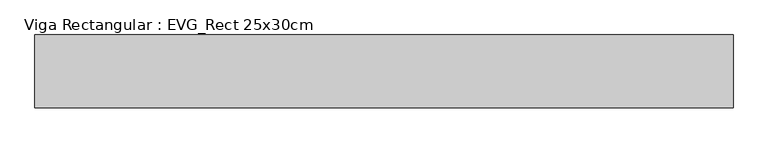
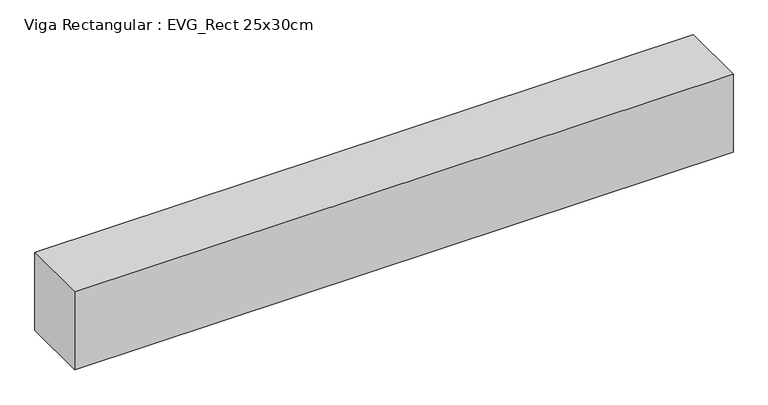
"""IFC4 building model written with IfcOpenShell, lengths in millimetres: beam geometry, Viga Rectangular : EVG_Rect 25x30cm."""

from ifc_helpers import new_model, si_unit, frame, origin, place, context, project, spatial, polyline, outline, extrude, source, transform, mapped, element, save


def viga_rectangular_evg_rect_25x30cm_620da6b6(model_context):
    return source(origin(), model_context, "Body", "SweptSolid", [
        extrude(outline(polyline([(1250.0, 125.0), (1250.0, -125.0), (-1150.0, -125.0), (-1150.0, 125.0), (1250.0, 125.0)])), frame((0.0, 0.0, -300.0), z_axis=(0.0, 0.0, 1.0), x_axis=(1.0, 0.0, 0.0)), (0.0, 0.0, 1.0), 300.0),
    ])


if __name__ == "__main__":
    model = new_model("IFC4")
    model_context = context("Model", 3, world=origin())
    ifc_project = project(units=[si_unit("LENGTHUNIT", "METRE", prefix="MILLI")], contexts=[model_context])
    site = spatial("IfcSite", under=ifc_project)
    building = spatial("IfcBuilding", under=site)
    placement = place(None, origin())
    viga_rectangular_evg_rect_25x30cm_shape = viga_rectangular_evg_rect_25x30cm_620da6b6(model_context)
    element("IfcBeam", 1, ObjectType="Viga Rectangular : EVG_Rect 25x30cm", at=placement, inside=building, context=model_context, shape_type="MappedRepresentation", body=[
        mapped(viga_rectangular_evg_rect_25x30cm_shape, transform((0.0, 0.0, 0.0), x_axis=(1.0, 0.0, 0.0), y_axis=(0.0, 1.0, 0.0), z_axis=(0.0, 0.0, 1.0))),
    ])
    save(model, "model.ifc")
